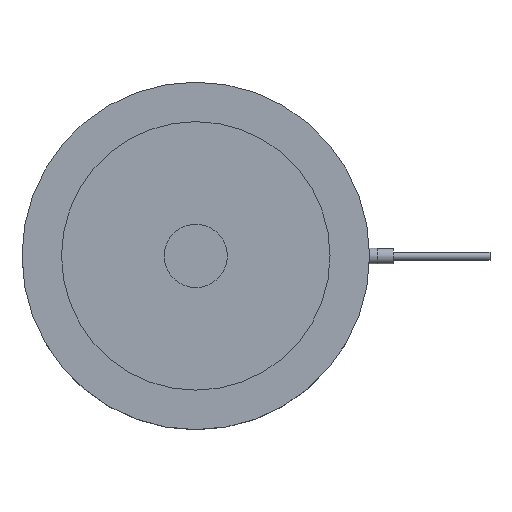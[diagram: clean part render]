
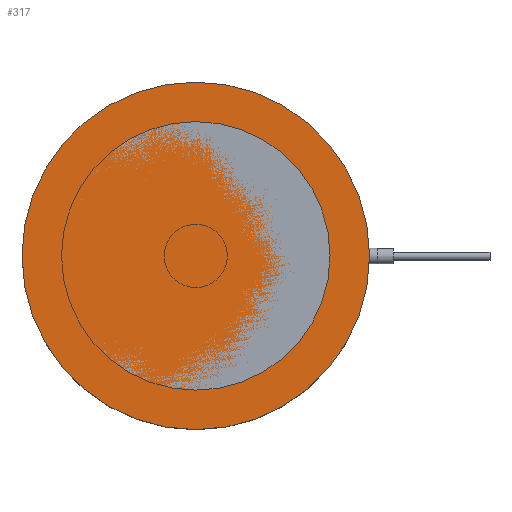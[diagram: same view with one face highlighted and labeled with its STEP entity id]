
A CAD part, top view. The second image highlights one B-rep face of the part: STEP entity #317.
In plain terms, the highlighted planar face has unit normal (0, 0, 1).
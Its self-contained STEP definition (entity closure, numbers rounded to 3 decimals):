
#199=PLANE('',#1165);
#237=FACE_OUTER_BOUND('',#525,.T.);
#317=ADVANCED_FACE('',(#237),#199,.F.);
#525=EDGE_LOOP('',(#657));
#657=ORIENTED_EDGE('',*,*,#946,.F.);
#854=VERTEX_POINT('',#1719);
#946=EDGE_CURVE('',#854,#854,#1057,.T.);
#1057=CIRCLE('',#1164,22.);
#1164=AXIS2_PLACEMENT_3D('',#1718,#1382,#1383);
#1165=AXIS2_PLACEMENT_3D('',#1720,#1384,#1385);
#1382=DIRECTION('',(0.,0.,-1.));
#1383=DIRECTION('',(-1.,0.,0.));
#1384=DIRECTION('',(0.,0.,-1.));
#1385=DIRECTION('',(-1.,0.,0.));
#1718=CARTESIAN_POINT('',(0.,0.,0.));
#1719=CARTESIAN_POINT('',(-22.,0.,0.));
#1720=CARTESIAN_POINT('',(0.,0.,0.));
